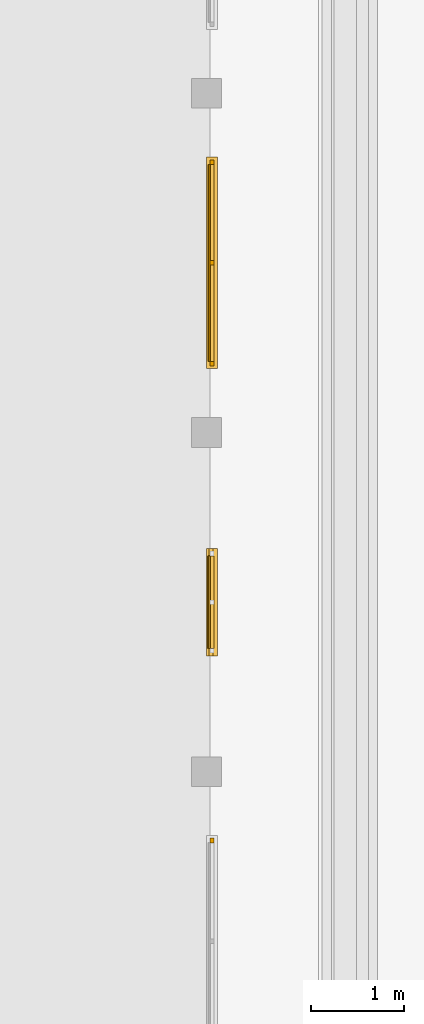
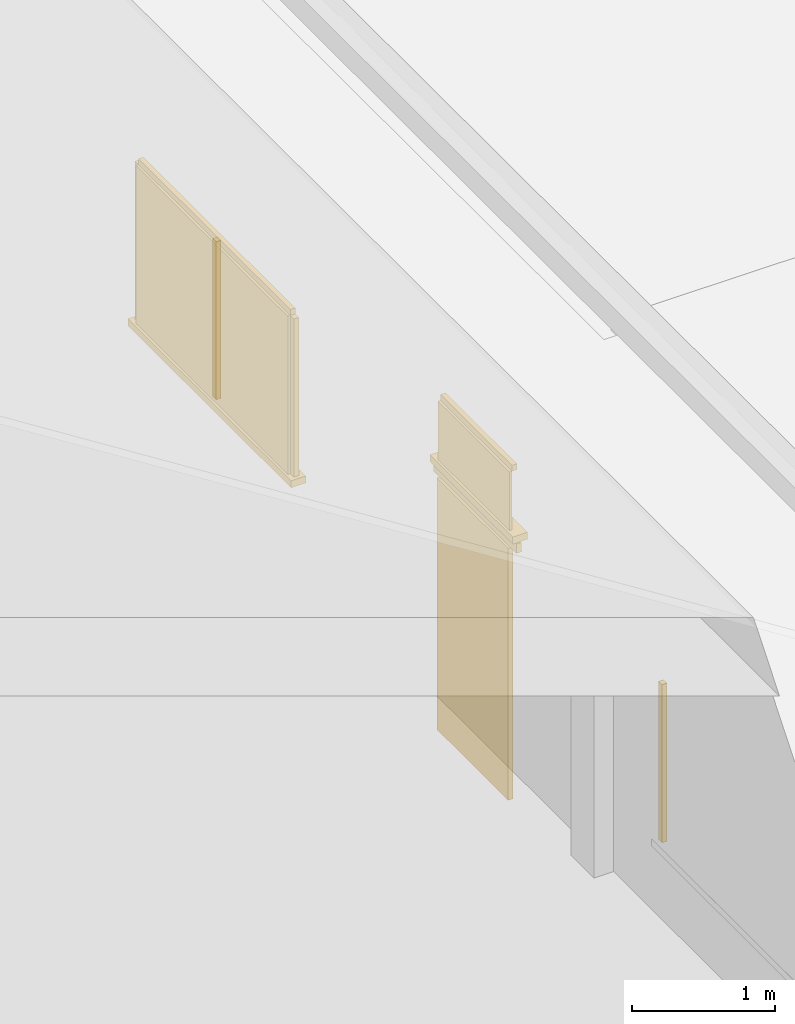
# One storey, part 59 of 177: 10 windows, 2 doors.
"""IFC4 building model written with IfcOpenShell, lengths in metres."""

from ifc_helpers import new_model, si_unit, origin, origin_with_axes, place, context, subcontext, project, spatial, triangles, element, save


model = new_model("IFC4")

# Units and contexts
model_context = context("Model", 3, precision=1e-05, world=origin_with_axes())
body_context = subcontext(model_context, "Body", "Model", "MODEL_VIEW")
ifc_project = project(units=[si_unit("LENGTHUNIT", "METRE"), si_unit("AREAUNIT", "SQUARE_METRE"), si_unit("VOLUMEUNIT", "CUBIC_METRE"), si_unit("PLANEANGLEUNIT", "RADIAN")], contexts=[model_context])

# Site, building, storey
site_placement = place(None, origin_with_axes())
site = spatial("IfcSite", under=ifc_project, at=site_placement, Name="Predio Los Mangos - Morales, San Martín", CompositionType="ELEMENT")
building_placement = place(site_placement, origin())
building = spatial("IfcBuilding", under=site, at=building_placement, Name="Hogar de Refugio Temporal", CompositionType="ELEMENT")
storey_placement = place(building_placement, origin())
storey = spatial("IfcBuildingStorey", under=building, at=storey_placement, Name="NIVEL 1 (NPT +0.00)", CompositionType="ELEMENT", Elevation=0.0)

# Window
window_1_placement = place(storey_placement, origin())
element("IfcWindow", 1, at=window_1_placement, inside=storey, Name="E-05_v3_m", ObjectType="Ventana", PredefinedType="WINDOW", context=body_context, shape_type="Tessellation", body=[
    triangles([(59.64, 71.7809, 1.05), (59.68, 71.7809, 1.05), (59.68, 71.8309, 1.05), (59.64, 71.8309, 1.05), (59.64, 71.7809, 2.4), (59.68, 71.7809, 2.4), (59.68, 71.8309, 2.4), (59.64, 71.8309, 2.4)], [[1, 4, 3], [1, 3, 2], [5, 6, 7], [5, 7, 8], [1, 2, 6], [1, 6, 5], [2, 3, 7], [2, 7, 6], [3, 4, 8], [3, 8, 7], [4, 1, 5], [4, 5, 8]]),
])

# Doors
door_1_placement = place(storey_placement, origin())
element("IfcDoor", 2, at=door_1_placement, inside=storey, Name="E-05_p4", ObjectType="Puerta", PredefinedType="DOOR", context=body_context, shape_type="Tessellation", body=[
    triangles([(59.61, 73.8812, 0.15), (59.65, 73.8812, 0.15), (59.65, 74.8812, 0.15), (59.61, 74.8812, 0.15), (59.61, 73.8812, 2.3), (59.65, 73.8812, 2.3), (59.65, 74.8812, 2.3), (59.61, 74.8812, 2.3)], [[1, 4, 3], [1, 3, 2], [5, 6, 7], [5, 7, 8], [1, 2, 6], [1, 6, 5], [2, 3, 7], [2, 7, 6], [3, 4, 8], [3, 8, 7], [4, 1, 5], [4, 5, 8]]),
])
door_2_placement = place(storey_placement, origin())
element("IfcDoor", 3, at=door_2_placement, inside=storey, Name="E-05_p4_marco", ObjectType="Puerta", PredefinedType="DOOR", context=body_context, shape_type="Tessellation", body=[
    triangles([(59.63, 73.8012, 2.3), (59.67, 73.8012, 2.3), (59.67, 74.9613, 2.3), (59.63, 74.9613, 2.3), (59.63, 73.8012, 2.38), (59.67, 73.8012, 2.38), (59.67, 74.9613, 2.38), (59.63, 74.9613, 2.38)], [[1, 4, 3], [1, 3, 2], [5, 6, 7], [5, 7, 8], [1, 2, 6], [1, 6, 5], [2, 3, 7], [2, 7, 6], [3, 4, 8], [3, 8, 7], [4, 1, 5], [4, 5, 8]]),
])

# Windows
window_2_placement = place(storey_placement, origin())
element("IfcWindow", 4, at=window_2_placement, inside=storey, Name="E-05_vt4_vid", ObjectType="Ventana", PredefinedType="WINDOW", context=body_context, shape_type="Tessellation", body=[
    triangles([(59.62, 73.8812, 2.45), (59.64, 73.8812, 2.45), (59.64, 74.8812, 2.45), (59.62, 74.8812, 2.45), (59.62, 73.8812, 2.95), (59.64, 73.8812, 2.95), (59.64, 74.8812, 2.95), (59.62, 74.8812, 2.95)], [[1, 4, 3], [1, 3, 2], [5, 6, 7], [5, 7, 8], [1, 2, 6], [1, 6, 5], [2, 3, 7], [2, 7, 6], [3, 4, 8], [3, 8, 7], [4, 1, 5], [4, 5, 8]]),
])
window_3_placement = place(storey_placement, origin())
element("IfcWindow", 5, at=window_3_placement, inside=storey, Name="E-05_vt4_m", ObjectType="Ventana", PredefinedType="WINDOW", context=body_context, shape_type="Tessellation", body=[
    triangles([(59.64, 73.8812, 2.95), (59.68, 73.8812, 2.95), (59.68, 74.8812, 2.95), (59.64, 74.8812, 2.95), (59.64, 73.8812, 3.0), (59.68, 73.8812, 3.0), (59.68, 74.8812, 3.0), (59.64, 74.8812, 3.0)], [[1, 4, 3], [1, 3, 2], [5, 6, 7], [5, 7, 8], [1, 2, 6], [1, 6, 5], [2, 3, 7], [2, 7, 6], [3, 4, 8], [3, 8, 7], [4, 1, 5], [4, 5, 8]]),
])
window_4_placement = place(storey_placement, origin())
element("IfcWindow", 6, at=window_4_placement, inside=storey, Name="E-05_vt4_alf", ObjectType="Ventana", PredefinedType="WINDOW", context=body_context, shape_type="Tessellation", body=[
    triangles([(59.6, 73.8012, 2.39), (59.72, 73.8012, 2.39), (59.72, 74.9613, 2.39), (59.6, 74.9613, 2.39), (59.6, 73.8012, 2.45), (59.72, 73.8012, 2.45), (59.72, 74.9613, 2.45), (59.6, 74.9613, 2.45)], [[1, 4, 3], [1, 3, 2], [5, 6, 7], [5, 7, 8], [1, 2, 6], [1, 6, 5], [2, 3, 7], [2, 7, 6], [3, 4, 8], [3, 8, 7], [4, 1, 5], [4, 5, 8]]),
])
window_5_placement = place(storey_placement, origin())
element("IfcWindow", 7, at=window_5_placement, inside=storey, Name="E-05_v5_vid", ObjectType="Ventana", PredefinedType="WINDOW", context=body_context, shape_type="Tessellation", body=[
    triangles([(59.62, 76.9816, 1.05), (59.64, 76.9816, 1.05), (59.64, 79.1059, 1.05), (59.62, 79.1059, 1.05), (59.62, 76.9816, 2.4), (59.64, 76.9816, 2.4), (59.64, 79.1059, 2.4), (59.62, 79.1059, 2.4)], [[1, 4, 3], [1, 3, 2], [5, 6, 7], [5, 7, 8], [1, 2, 6], [1, 6, 5], [2, 3, 7], [2, 7, 6], [3, 4, 8], [3, 8, 7], [4, 1, 5], [4, 5, 8]]),
])
window_6_placement = place(storey_placement, origin())
element("IfcWindow", 8, at=window_6_placement, inside=storey, Name="E-05_v5_m", ObjectType="Ventana", PredefinedType="WINDOW", context=body_context, shape_type="Tessellation", body=[
    triangles([(59.64, 76.9316, 1.05), (59.68, 76.9316, 1.05), (59.68, 76.9816, 1.05), (59.64, 76.9816, 1.05), (59.64, 76.9316, 2.4), (59.68, 76.9316, 2.4), (59.68, 76.9816, 2.4), (59.64, 76.9816, 2.4)], [[1, 4, 3], [1, 3, 2], [5, 6, 7], [5, 7, 8], [1, 2, 6], [1, 6, 5], [2, 3, 7], [2, 7, 6], [3, 4, 8], [3, 8, 7], [4, 1, 5], [4, 5, 8]]),
])
window_7_placement = place(storey_placement, origin())
element("IfcWindow", 9, at=window_7_placement, inside=storey, Name="E-05_v5_m", ObjectType="Ventana", PredefinedType="WINDOW", context=body_context, shape_type="Tessellation", body=[
    triangles([(59.64, 79.1059, 1.05), (59.68, 79.1059, 1.05), (59.68, 79.1559, 1.05), (59.64, 79.1559, 1.05), (59.64, 79.1059, 2.4), (59.68, 79.1059, 2.4), (59.68, 79.1559, 2.4), (59.64, 79.1559, 2.4)], [[1, 4, 3], [1, 3, 2], [5, 6, 7], [5, 7, 8], [1, 2, 6], [1, 6, 5], [2, 3, 7], [2, 7, 6], [3, 4, 8], [3, 8, 7], [4, 1, 5], [4, 5, 8]]),
])
window_8_placement = place(storey_placement, origin())
element("IfcWindow", 10, at=window_8_placement, inside=storey, Name="E-05_v5_m", ObjectType="Ventana", PredefinedType="WINDOW", context=body_context, shape_type="Tessellation", body=[
    triangles([(59.64, 76.9816, 2.4), (59.68, 76.9816, 2.4), (59.68, 79.1059, 2.4), (59.64, 79.1059, 2.4), (59.64, 76.9816, 2.45), (59.68, 76.9816, 2.45), (59.68, 79.1059, 2.45), (59.64, 79.1059, 2.45)], [[1, 4, 3], [1, 3, 2], [5, 6, 7], [5, 7, 8], [1, 2, 6], [1, 6, 5], [2, 3, 7], [2, 7, 6], [3, 4, 8], [3, 8, 7], [4, 1, 5], [4, 5, 8]]),
])
window_9_placement = place(storey_placement, origin())
element("IfcWindow", 11, at=window_9_placement, inside=storey, Name="E-05_v5_m", ObjectType="Ventana", PredefinedType="WINDOW", context=body_context, shape_type="Tessellation", body=[
    triangles([(59.64, 78.0188, 1.05), (59.68, 78.0188, 1.05), (59.68, 78.0687, 1.05), (59.64, 78.0687, 1.05), (59.64, 78.0188, 2.4), (59.68, 78.0188, 2.4), (59.68, 78.0687, 2.4), (59.64, 78.0687, 2.4)], [[1, 4, 3], [1, 3, 2], [5, 6, 7], [5, 7, 8], [1, 2, 6], [1, 6, 5], [2, 3, 7], [2, 7, 6], [3, 4, 8], [3, 8, 7], [4, 1, 5], [4, 5, 8]]),
])
window_10_placement = place(storey_placement, origin())
element("IfcWindow", 12, at=window_10_placement, inside=storey, Name="E-05_v5_alf", ObjectType="Ventana", PredefinedType="WINDOW", context=body_context, shape_type="Tessellation", body=[
    triangles([(59.6, 76.9016, 0.99), (59.72, 76.9016, 0.99), (59.72, 79.1859, 0.99), (59.6, 79.1859, 0.99), (59.6, 76.9016, 1.05), (59.72, 76.9016, 1.05), (59.72, 79.1859, 1.05), (59.6, 79.1859, 1.05)], [[1, 4, 3], [1, 3, 2], [5, 6, 7], [5, 7, 8], [1, 2, 6], [1, 6, 5], [2, 3, 7], [2, 7, 6], [3, 4, 8], [3, 8, 7], [4, 1, 5], [4, 5, 8]]),
])

save(model, "model.ifc")
